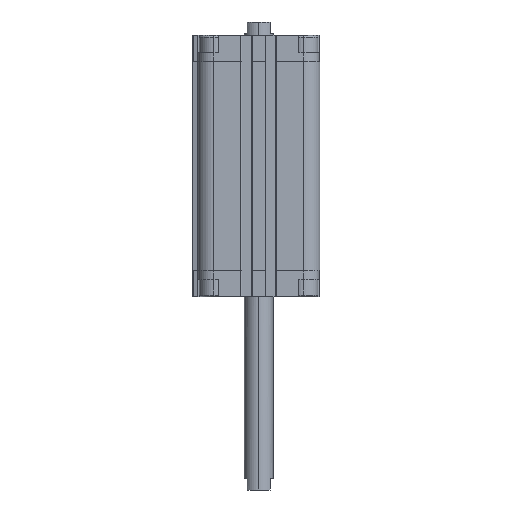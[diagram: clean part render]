
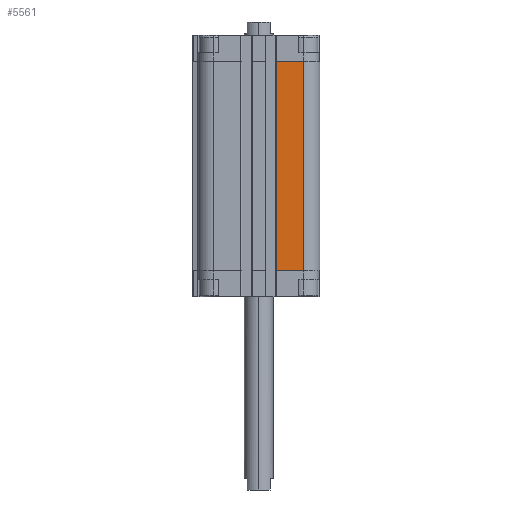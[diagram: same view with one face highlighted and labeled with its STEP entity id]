
A CAD part, left-side view. The second image highlights one B-rep face of the part: STEP entity #5561.
In plain terms, the highlighted planar face has unit normal (-1, 0, 0).
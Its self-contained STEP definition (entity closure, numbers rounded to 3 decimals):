
#311 = PLANE ( 'NONE',  #12180 ) ;
#569 = EDGE_CURVE ( 'NONE', #22384, #15260, #21228, .T. ) ;
#1132 = EDGE_CURVE ( 'NONE', #1754, #15260, #2652, .T. ) ;
#1754 = VERTEX_POINT ( 'NONE', #9007 ) ;
#2652 = LINE ( 'NONE', #8027, #14331 ) ;
#3757 = CARTESIAN_POINT ( 'NONE',  ( -34., -9.85, -131. ) ) ;
#4278 = EDGE_LOOP ( 'NONE', ( #22301, #19032, #7754, #18952 ) ) ;
#5561 = ADVANCED_FACE ( 'NONE', ( #11071 ), #311, .T. ) ;
#5692 = CARTESIAN_POINT ( 'NONE',  ( -34., -9.85, -131. ) ) ;
#7634 = DIRECTION ( 'NONE',  ( -1., 0., 0. ) ) ;
#7754 = ORIENTED_EDGE ( 'NONE', *, *, #18255, .T. ) ;
#8027 = CARTESIAN_POINT ( 'NONE',  ( -34., -9.85, -14.5 ) ) ;
#8161 = EDGE_CURVE ( 'NONE', #13761, #1754, #10295, .T. ) ;
#9007 = CARTESIAN_POINT ( 'NONE',  ( -34., -9.85, -14.5 ) ) ;
#9420 = CARTESIAN_POINT ( 'NONE',  ( -34., -9.85, -131. ) ) ;
#9527 = VECTOR ( 'NONE', #21422, 1000. ) ;
#10295 = LINE ( 'NONE', #21042, #15687 ) ;
#10516 = DIRECTION ( 'NONE',  ( 0., 0., 1. ) ) ;
#11071 = FACE_OUTER_BOUND ( 'NONE', #4278, .T. ) ;
#11836 = CARTESIAN_POINT ( 'NONE',  ( -34., -25., -14.5 ) ) ;
#12180 = AXIS2_PLACEMENT_3D ( 'NONE', #5692, #7634, #21241 ) ;
#13761 = VERTEX_POINT ( 'NONE', #3757 ) ;
#14331 = VECTOR ( 'NONE', #14904, 1000. ) ;
#14446 = LINE ( 'NONE', #9420, #9527 ) ;
#14904 = DIRECTION ( 'NONE',  ( 0., -1., 0. ) ) ;
#15260 = VERTEX_POINT ( 'NONE', #11836 ) ;
#15687 = VECTOR ( 'NONE', #10516, 1000. ) ;
#15871 = CARTESIAN_POINT ( 'NONE',  ( -34., -25., -131. ) ) ;
#18255 = EDGE_CURVE ( 'NONE', #13761, #22384, #14446, .T. ) ;
#18952 = ORIENTED_EDGE ( 'NONE', *, *, #569, .T. ) ;
#19032 = ORIENTED_EDGE ( 'NONE', *, *, #8161, .F. ) ;
#19235 = VECTOR ( 'NONE', #21010, 1000. ) ;
#19778 = CARTESIAN_POINT ( 'NONE',  ( -34., -25., -131. ) ) ;
#21010 = DIRECTION ( 'NONE',  ( 0., 0., 1. ) ) ;
#21042 = CARTESIAN_POINT ( 'NONE',  ( -34., -9.85, -131. ) ) ;
#21228 = LINE ( 'NONE', #15871, #19235 ) ;
#21241 = DIRECTION ( 'NONE',  ( 0., -1., 0. ) ) ;
#21422 = DIRECTION ( 'NONE',  ( 0., -1., 0. ) ) ;
#22301 = ORIENTED_EDGE ( 'NONE', *, *, #1132, .F. ) ;
#22384 = VERTEX_POINT ( 'NONE', #19778 ) ;
